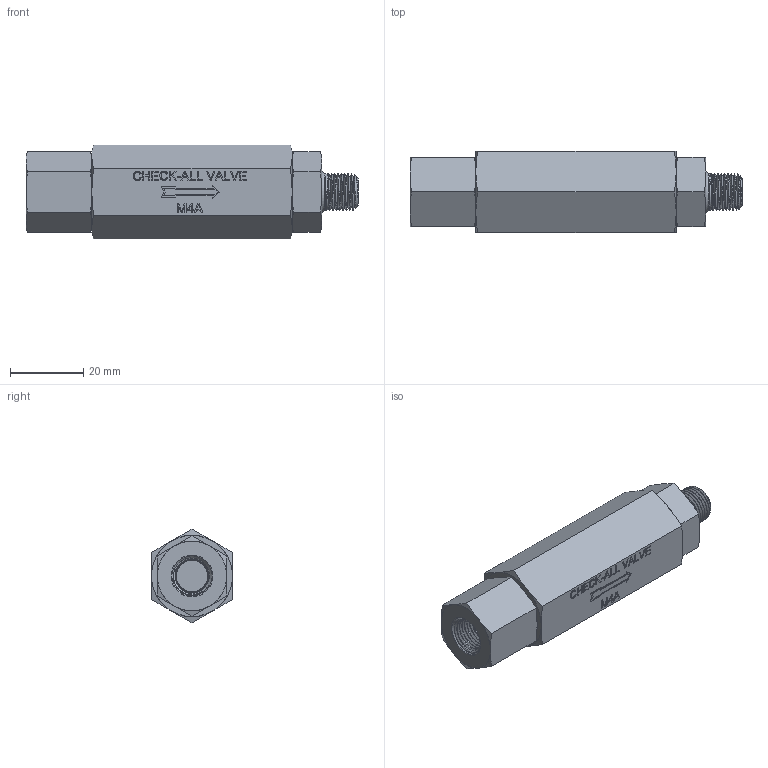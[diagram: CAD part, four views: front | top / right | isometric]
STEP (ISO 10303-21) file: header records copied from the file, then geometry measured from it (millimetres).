
FILE_DESCRIPTION( ( 'Unknown' ), '1' );
FILE_NAME( 'Y:/ENGR/3D Solid Edge Models/M(1-8)/M4/stp/M4A.stp', 'Unknown', ( 'Unknown' ), ( 'Unknown' ), 'PSStep 16.0.42', 'Unknown', ' ' );
FILE_SCHEMA( ( 'AUTOMOTIVE_DESIGN { 1 0 10303 214 1 1 1 1 }' ) );
Length unit declared in the file: millimetre
Products named in the file (1): 5016b 
Bounding box: 90.83 x 22.23 x 25.66 mm (x, y, z)
Volume: 31125.7 mm3; surface area: 8112.9 mm2
Topology: 1 solids, 1 shells, 410 faces, 1046 edges, 660 vertices
Faces by surface type: extrusion 152, plane 72, cylinder 70, cone 44, torus 40, bspline 30, sphere 2
Full cylindrical faces by diameter (mm): 4.763 x1, 8.611 x1, 10.287 x2
Entity records: 45801 total; most frequent: CARTESIAN_POINT 33636, ORIENTED_EDGE 2028, DIRECTION 1402, EDGE_CURVE 1014, VERTEX_POINT 647, B_SPLINE_CURVE_WITH_KNOTS 575, VECTOR 534, EDGE_LOOP 443
